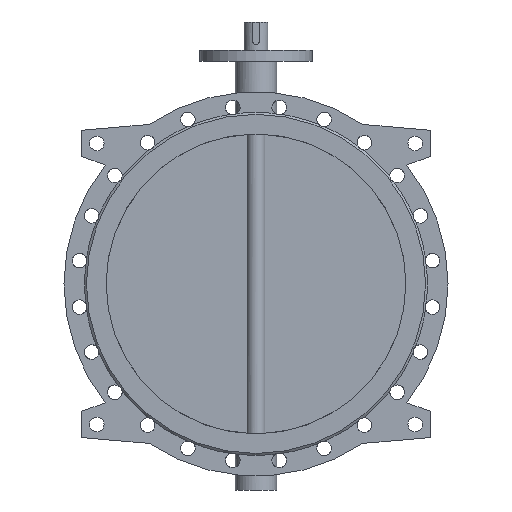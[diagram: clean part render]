
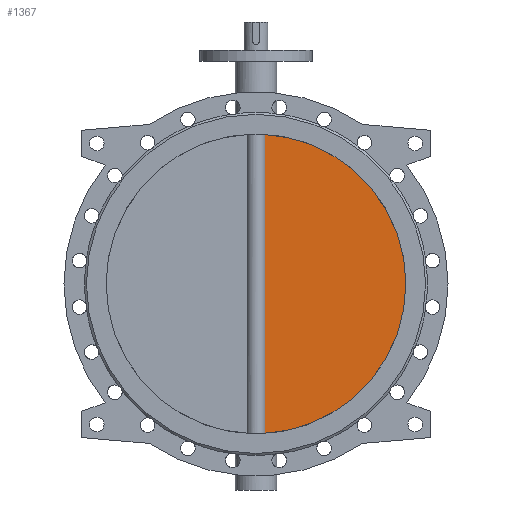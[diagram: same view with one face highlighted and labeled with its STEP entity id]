
A CAD part, front view. The second image highlights one B-rep face of the part: STEP entity #1367.
In plain terms, the highlighted planar face has unit normal (0, -1, 0).
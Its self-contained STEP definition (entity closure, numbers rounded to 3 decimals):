
#1367=ADVANCED_FACE('',(#2767),#2769,.T.);
#2767=FACE_BOUND('',#2768,.T.);
#2768=EDGE_LOOP('',(#3779,#3780));
#2769=PLANE('',#2770);
#2770=AXIS2_PLACEMENT_3D('',#2771,#2772,#2773);
#2771=CARTESIAN_POINT('',(0.,-7.5,0.));
#2772=DIRECTION('',(0.,-1.,0.));
#2773=DIRECTION('',(1.,0.,0.));
#3779=ORIENTED_EDGE('',*,*,#4277,.T.);
#3780=ORIENTED_EDGE('',*,*,#4287,.T.);
#4277=EDGE_CURVE('',#5139,#5140,#5141,.F.);
#4287=EDGE_CURVE('',#5140,#5139,#5159,.T.);
#5139=VERTEX_POINT('',#11742);
#5140=VERTEX_POINT('',#11743);
#5141=CIRCLE('',#11744,400.);
#5159=LINE('',#12217,#12218);
#11742=CARTESIAN_POINT('',(23.848,-7.5,-399.288));
#11743=CARTESIAN_POINT('',(23.848,-7.5,399.288));
#11744=AXIS2_PLACEMENT_3D('',#11745,#11746,#11747);
#11745=CARTESIAN_POINT('',(0.,-7.5,0.));
#11746=DIRECTION('',(0.,1.,0.));
#11747=DIRECTION('',(0.06,0.,0.998));
#12217=CARTESIAN_POINT('',(23.848,-7.5,399.288));
#12218=VECTOR('',#12219,1.);
#12219=DIRECTION('',(0.,0.,-1.));
